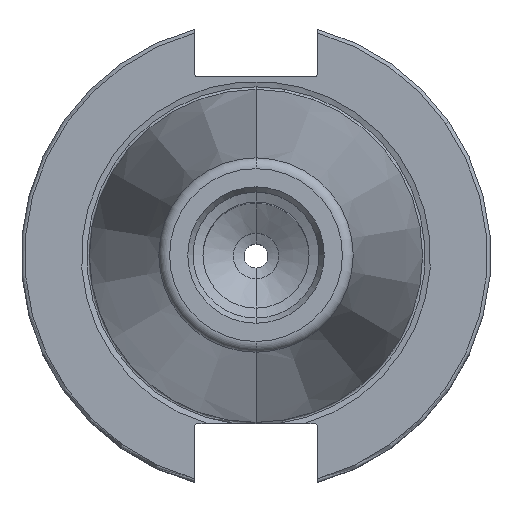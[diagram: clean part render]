
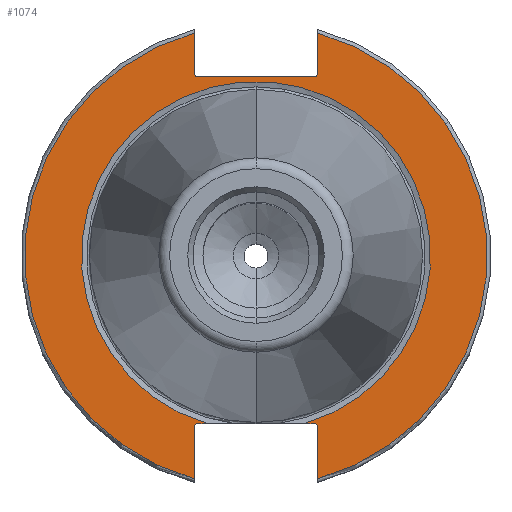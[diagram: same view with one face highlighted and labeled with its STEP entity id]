
A CAD part, top view. The second image highlights one B-rep face of the part: STEP entity #1074.
In plain terms, the highlighted planar face has unit normal (0, 0, 1).
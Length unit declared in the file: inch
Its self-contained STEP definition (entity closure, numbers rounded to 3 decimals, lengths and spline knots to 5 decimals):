
#79 = LINE ( 'NONE', #4215, #3903 ) ;
#81 = CARTESIAN_POINT ( 'NONE',  ( 0., 0., -0.125 ) ) ;
#148 = CIRCLE ( 'NONE', #3997, 0.03 ) ;
#152 = CARTESIAN_POINT ( 'NONE',  ( 1.9075, 1.4775, -0.125 ) ) ;
#198 = LINE ( 'NONE', #152, #3893 ) ;
#284 = EDGE_CURVE ( 'NONE', #558, #3744, #1957, .T. ) ;
#346 = VERTEX_POINT ( 'NONE', #1430 ) ;
#399 = LINE ( 'NONE', #3720, #2074 ) ;
#420 = DIRECTION ( 'NONE',  ( 0., 0., -1. ) ) ;
#444 = ORIENTED_EDGE ( 'NONE', *, *, #3620, .T. ) ;
#558 = VERTEX_POINT ( 'NONE', #2720 ) ;
#642 = EDGE_CURVE ( 'NONE', #4309, #2722, #1730, .T. ) ;
#660 = VERTEX_POINT ( 'NONE', #1286 ) ;
#677 = CIRCLE ( 'NONE', #3257, 0.03 ) ;
#738 = CARTESIAN_POINT ( 'NONE',  ( -0.40209, -1.3825, -0.125 ) ) ;
#807 = DIRECTION ( 'NONE',  ( 0., 1., 0. ) ) ;
#850 = VECTOR ( 'NONE', #1437, 39.37008 ) ;
#871 = EDGE_CURVE ( 'NONE', #3001, #346, #198, .T. ) ;
#876 = VERTEX_POINT ( 'NONE', #3488 ) ;
#914 = DIRECTION ( 'NONE',  ( 0., 0., -1. ) ) ;
#990 = AXIS2_PLACEMENT_3D ( 'NONE', #2912, #2886, #2813 ) ;
#1006 = ORIENTED_EDGE ( 'NONE', *, *, #2287, .T. ) ;
#1066 = CARTESIAN_POINT ( 'NONE',  ( 0., 0., -0.125 ) ) ;
#1074 = ADVANCED_FACE ( 'NONE', ( #1555 ), #3053, .T. ) ;
#1158 = LINE ( 'NONE', #2183, #850 ) ;
#1260 = ORIENTED_EDGE ( 'NONE', *, *, #284, .F. ) ;
#1286 = CARTESIAN_POINT ( 'NONE',  ( -0.48, -1.3825, -0.125 ) ) ;
#1302 = AXIS2_PLACEMENT_3D ( 'NONE', #4723, #4669, #4697 ) ;
#1323 = EDGE_CURVE ( 'NONE', #3327, #4719, #79, .T. ) ;
#1327 = CARTESIAN_POINT ( 'NONE',  ( 0.48, -1.3825, -0.125 ) ) ;
#1354 = ORIENTED_EDGE ( 'NONE', *, *, #2106, .T. ) ;
#1430 = CARTESIAN_POINT ( 'NONE',  ( 0.48, 1.4775, -0.125 ) ) ;
#1437 = DIRECTION ( 'NONE',  ( 1., 0., 0. ) ) ;
#1532 = EDGE_CURVE ( 'NONE', #1929, #3327, #2774, .T. ) ;
#1538 = VECTOR ( 'NONE', #2240, 39.37008 ) ;
#1555 = FACE_OUTER_BOUND ( 'NONE', #4383, .T. ) ;
#1562 = EDGE_CURVE ( 'NONE', #2722, #876, #399, .T. ) ;
#1719 = EDGE_CURVE ( 'NONE', #3632, #660, #677, .T. ) ;
#1730 = CIRCLE ( 'NONE', #3568, 1.9075 ) ;
#1786 = ORIENTED_EDGE ( 'NONE', *, *, #1323, .T. ) ;
#1815 = VERTEX_POINT ( 'NONE', #4376 ) ;
#1844 = DIRECTION ( 'NONE',  ( 1., 0., 0. ) ) ;
#1888 = DIRECTION ( 'NONE',  ( 0., 1., 0. ) ) ;
#1929 = VERTEX_POINT ( 'NONE', #738 ) ;
#1930 = CARTESIAN_POINT ( 'NONE',  ( 1.9075, 0., -0.125 ) ) ;
#1956 = ORIENTED_EDGE ( 'NONE', *, *, #3413, .T. ) ;
#1957 = CIRCLE ( 'NONE', #4757, 1.9075 ) ;
#1965 = CARTESIAN_POINT ( 'NONE',  ( 0.51, -1.4125, -0.125 ) ) ;
#1967 = DIRECTION ( 'NONE',  ( 0., 1., 0. ) ) ;
#1994 = CIRCLE ( 'NONE', #990, 0.03 ) ;
#2000 = CIRCLE ( 'NONE', #1302, 0.03 ) ;
#2036 = ORIENTED_EDGE ( 'NONE', *, *, #642, .F. ) ;
#2073 = DIRECTION ( 'NONE',  ( 0., 0., -1. ) ) ;
#2074 = VECTOR ( 'NONE', #4462, 39.37008 ) ;
#2106 = EDGE_CURVE ( 'NONE', #3001, #876, #1994, .T. ) ;
#2183 = CARTESIAN_POINT ( 'NONE',  ( 1.9075, -1.3825, -0.125 ) ) ;
#2215 = DIRECTION ( 'NONE',  ( 0., 1., 0. ) ) ;
#2240 = DIRECTION ( 'NONE',  ( 0., -1., 0. ) ) ;
#2262 = VERTEX_POINT ( 'NONE', #1965 ) ;
#2287 = EDGE_CURVE ( 'NONE', #1815, #346, #148, .T. ) ;
#2339 = ORIENTED_EDGE ( 'NONE', *, *, #1719, .T. ) ;
#2401 = VECTOR ( 'NONE', #1888, 39.37008 ) ;
#2434 = ORIENTED_EDGE ( 'NONE', *, *, #1562, .F. ) ;
#2438 = DIRECTION ( 'NONE',  ( 0., 1., 0. ) ) ;
#2599 = CARTESIAN_POINT ( 'NONE',  ( 0.51, 0., -0.125 ) ) ;
#2624 = LINE ( 'NONE', #2599, #1538 ) ;
#2646 = DIRECTION ( 'NONE',  ( 0., 0., -1. ) ) ;
#2653 = LINE ( 'NONE', #3447, #4122 ) ;
#2720 = CARTESIAN_POINT ( 'NONE',  ( 0.51, 1.83806, -0.125 ) ) ;
#2722 = VERTEX_POINT ( 'NONE', #4037 ) ;
#2745 = CARTESIAN_POINT ( 'NONE',  ( -0.48, -1.4125, -0.125 ) ) ;
#2746 = LINE ( 'NONE', #3794, #2401 ) ;
#2769 = ORIENTED_EDGE ( 'NONE', *, *, #871, .F. ) ;
#2774 = CIRCLE ( 'NONE', #4700, 1.43979 ) ;
#2813 = DIRECTION ( 'NONE',  ( 0., -1., 0. ) ) ;
#2818 = CARTESIAN_POINT ( 'NONE',  ( -0.51, -1.4125, -0.125 ) ) ;
#2886 = DIRECTION ( 'NONE',  ( 0., 0., -1. ) ) ;
#2912 = CARTESIAN_POINT ( 'NONE',  ( -0.48, 1.5075, -0.125 ) ) ;
#2923 = CARTESIAN_POINT ( 'NONE',  ( 0.51, -1.83806, -0.125 ) ) ;
#3001 = VERTEX_POINT ( 'NONE', #4846 ) ;
#3053 = PLANE ( 'NONE',  #3498 ) ;
#3080 = DIRECTION ( 'NONE',  ( 0., -1., 0. ) ) ;
#3120 = DIRECTION ( 'NONE',  ( 0., -1., 0. ) ) ;
#3152 = DIRECTION ( 'NONE',  ( 1., 0., 0. ) ) ;
#3257 = AXIS2_PLACEMENT_3D ( 'NONE', #2745, #4276, #3080 ) ;
#3327 = VERTEX_POINT ( 'NONE', #4647 ) ;
#3376 = ORIENTED_EDGE ( 'NONE', *, *, #4323, .T. ) ;
#3413 = EDGE_CURVE ( 'NONE', #4719, #2262, #2000, .T. ) ;
#3447 = CARTESIAN_POINT ( 'NONE',  ( 0.51, 0., -0.125 ) ) ;
#3470 = EDGE_CURVE ( 'NONE', #2262, #3744, #2624, .T. ) ;
#3488 = CARTESIAN_POINT ( 'NONE',  ( -0.51, 1.5075, -0.125 ) ) ;
#3498 = AXIS2_PLACEMENT_3D ( 'NONE', #1930, #4209, #3845 ) ;
#3568 = AXIS2_PLACEMENT_3D ( 'NONE', #81, #2073, #2438 ) ;
#3620 = EDGE_CURVE ( 'NONE', #4309, #3632, #2746, .T. ) ;
#3632 = VERTEX_POINT ( 'NONE', #2818 ) ;
#3720 = CARTESIAN_POINT ( 'NONE',  ( -0.51, 0., -0.125 ) ) ;
#3744 = VERTEX_POINT ( 'NONE', #2923 ) ;
#3794 = CARTESIAN_POINT ( 'NONE',  ( -0.51, 0., -0.125 ) ) ;
#3845 = DIRECTION ( 'NONE',  ( 0., -1., 0. ) ) ;
#3893 = VECTOR ( 'NONE', #3152, 39.37008 ) ;
#3903 = VECTOR ( 'NONE', #1844, 39.37008 ) ;
#3997 = AXIS2_PLACEMENT_3D ( 'NONE', #4248, #914, #3120 ) ;
#4037 = CARTESIAN_POINT ( 'NONE',  ( -0.51, 1.83806, -0.125 ) ) ;
#4039 = ORIENTED_EDGE ( 'NONE', *, *, #1532, .T. ) ;
#4122 = VECTOR ( 'NONE', #1967, 39.37008 ) ;
#4209 = DIRECTION ( 'NONE',  ( 0., 0., 1. ) ) ;
#4215 = CARTESIAN_POINT ( 'NONE',  ( 1.9075, -1.3825, -0.125 ) ) ;
#4248 = CARTESIAN_POINT ( 'NONE',  ( 0.48, 1.5075, -0.125 ) ) ;
#4276 = DIRECTION ( 'NONE',  ( 0., 0., -1. ) ) ;
#4309 = VERTEX_POINT ( 'NONE', #4863 ) ;
#4323 = EDGE_CURVE ( 'NONE', #660, #1929, #1158, .T. ) ;
#4376 = CARTESIAN_POINT ( 'NONE',  ( 0.51, 1.5075, -0.125 ) ) ;
#4383 = EDGE_LOOP ( 'NONE', ( #2434, #2036, #444, #2339, #3376, #4039, #1786, #1956, #4533, #1260, #4783, #1006, #2769, #1354 ) ) ;
#4462 = DIRECTION ( 'NONE',  ( 0., -1., 0. ) ) ;
#4533 = ORIENTED_EDGE ( 'NONE', *, *, #3470, .T. ) ;
#4543 = CARTESIAN_POINT ( 'NONE',  ( 0., 0., -0.125 ) ) ;
#4647 = CARTESIAN_POINT ( 'NONE',  ( 0.40209, -1.3825, -0.125 ) ) ;
#4669 = DIRECTION ( 'NONE',  ( 0., 0., -1. ) ) ;
#4697 = DIRECTION ( 'NONE',  ( 0., -1., 0. ) ) ;
#4700 = AXIS2_PLACEMENT_3D ( 'NONE', #1066, #420, #2215 ) ;
#4719 = VERTEX_POINT ( 'NONE', #1327 ) ;
#4723 = CARTESIAN_POINT ( 'NONE',  ( 0.48, -1.4125, -0.125 ) ) ;
#4757 = AXIS2_PLACEMENT_3D ( 'NONE', #4543, #2646, #807 ) ;
#4783 = ORIENTED_EDGE ( 'NONE', *, *, #4830, .F. ) ;
#4830 = EDGE_CURVE ( 'NONE', #1815, #558, #2653, .T. ) ;
#4846 = CARTESIAN_POINT ( 'NONE',  ( -0.48, 1.4775, -0.125 ) ) ;
#4863 = CARTESIAN_POINT ( 'NONE',  ( -0.51, -1.83806, -0.125 ) ) ;
